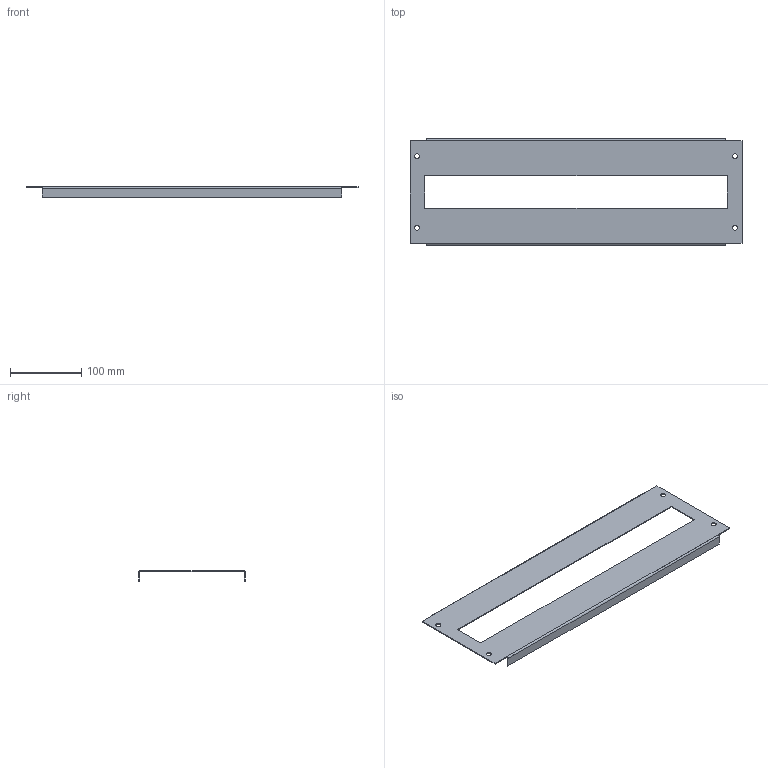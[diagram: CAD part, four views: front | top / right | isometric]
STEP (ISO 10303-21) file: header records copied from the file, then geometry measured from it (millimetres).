
FILE_DESCRIPTION (( 'STEP AP203' ), '1' );
FILE_NAME ('MB 15.50 P Ïàíåëü ìîäóëüíàÿ.STEP', '2012-11-21T07:08:57', ( 'system' ), ( '' ), 'SwSTEP 2.0', 'SolidWorks 2012', '' );
FILE_SCHEMA (( 'CONFIG_CONTROL_DESIGN' ));
Length unit declared in the file: millimetre
Products named in the file (1): MB 15.50 P Ïàíåëü ìîäóëüíàÿ
Bounding box: 465 x 149 x 15 mm (x, y, z)
Volume: 72443.1 mm3; surface area: 123505.8 mm2
Topology: 1 solids, 1 shells, 38 faces, 92 edges, 56 vertices
Faces by surface type: plane 26, cylinder 12
Entity records: 1189 total; most frequent: DIRECTION 194, CARTESIAN_POINT 187, ORIENTED_EDGE 184, EDGE_CURVE 92, VECTOR 68, LINE 68, AXIS2_PLACEMENT_3D 63, VERTEX_POINT 56
